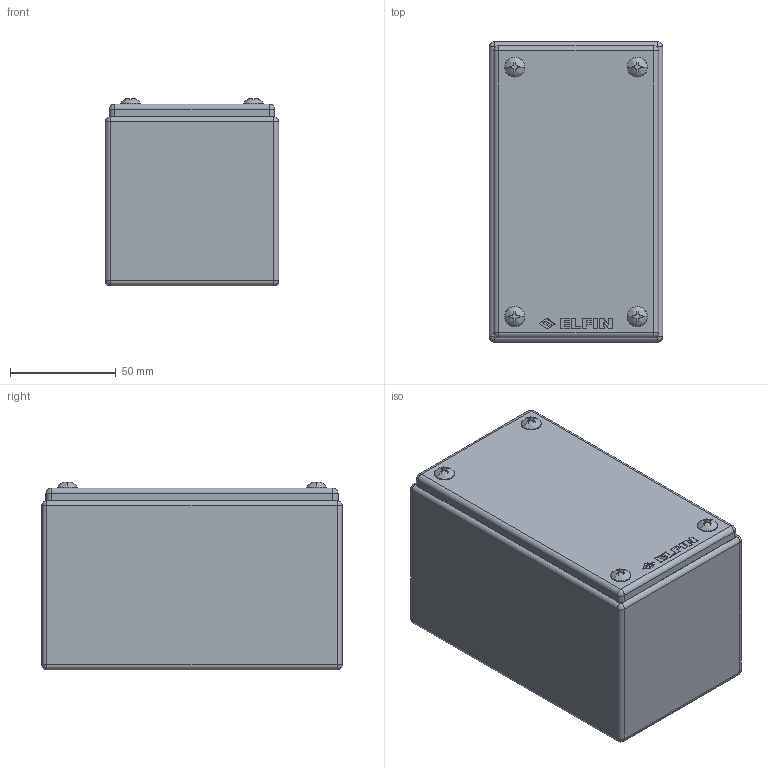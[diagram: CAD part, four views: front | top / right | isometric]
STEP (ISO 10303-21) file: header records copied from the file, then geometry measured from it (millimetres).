
FILE_DESCRIPTION (( 'STEP AP214' ), '1' );
FILE_NAME ('040X0814-8.STEP', '2025-05-09T11:29:01', ( '' ), ( '' ), 'SwSTEP 2.0', 'SolidWorks 2013', '' );
FILE_SCHEMA (( 'AUTOMOTIVE_DESIGN' ));
Length unit declared in the file: millimetre
Products named in the file (1): 040X0814-8
Bounding box: 82 x 142 x 88.8 mm (x, y, z)
Volume: 74701.4 mm3; surface area: 125394.5 mm2
Topology: 13 solids, 13 shells, 448 faces, 1065 edges, 639 vertices
Faces by surface type: plane 258, cylinder 108, bspline 48, cone 28, torus 6
Entity records: 18450 total; most frequent: CARTESIAN_POINT 3281, ORIENTED_EDGE 2082, DIRECTION 2058, EDGE_CURVE 1041, AXIS2_PLACEMENT_3D 696, VECTOR 666, LINE 666, VERTEX_POINT 639
